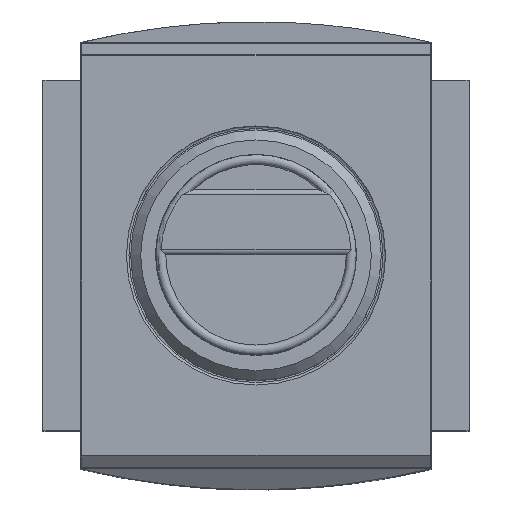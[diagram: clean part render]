
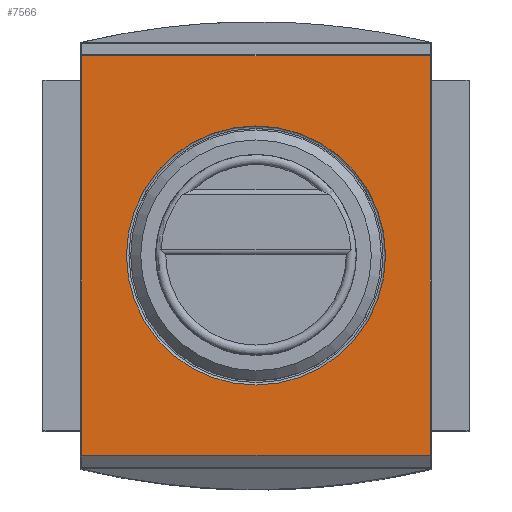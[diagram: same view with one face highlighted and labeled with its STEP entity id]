
A CAD part, top view. The second image highlights one B-rep face of the part: STEP entity #7566.
In plain terms, the highlighted planar face has unit normal (0, 0, 1).
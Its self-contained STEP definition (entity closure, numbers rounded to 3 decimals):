
#6997=CARTESIAN_POINT('',(-25.85,0.0,58.));
#6998=VERTEX_POINT('',#6997);
#6999=CARTESIAN_POINT('',(0.0,0.0,58.));
#7000=DIRECTION('',(0.0,0.0,-1.0));
#7001=DIRECTION('',(1.0,0.0,0.0));
#7002=AXIS2_PLACEMENT_3D('',#6999,#7000,#7001);
#7003=CIRCLE('',#7002,25.85);
#7004=EDGE_CURVE('',#6998,#6998,#7003,.T.);
#7344=CARTESIAN_POINT('',(-34.8,39.812,58.));
#7345=VERTEX_POINT('',#7344);
#7353=CARTESIAN_POINT('',(34.8,39.812,58.));
#7354=VERTEX_POINT('',#7353);
#7355=CARTESIAN_POINT('',(-34.8,39.812,58.));
#7356=DIRECTION('',(1.0,0.0,0.0));
#7357=VECTOR('',#7356,69.6);
#7358=LINE('',#7355,#7357);
#7359=EDGE_CURVE('',#7345,#7354,#7358,.T.);
#7393=CARTESIAN_POINT('',(34.8,-39.812,58.));
#7394=VERTEX_POINT('',#7393);
#7395=CARTESIAN_POINT('',(34.8,39.812,58.));
#7396=DIRECTION('',(0.0,-1.0,0.0));
#7397=VECTOR('',#7396,79.624);
#7398=LINE('',#7395,#7397);
#7399=EDGE_CURVE('',#7354,#7394,#7398,.T.);
#7431=CARTESIAN_POINT('',(-34.8,-39.812,58.));
#7432=VERTEX_POINT('',#7431);
#7433=CARTESIAN_POINT('',(34.8,-39.812,58.));
#7434=DIRECTION('',(-1.0,0.0,0.0));
#7435=VECTOR('',#7434,69.6);
#7436=LINE('',#7433,#7435);
#7437=EDGE_CURVE('',#7394,#7432,#7436,.T.);
#7479=CARTESIAN_POINT('',(-34.8,-39.812,58.));
#7480=DIRECTION('',(0.0,1.0,0.0));
#7481=VECTOR('',#7480,79.624);
#7482=LINE('',#7479,#7481);
#7483=EDGE_CURVE('',#7432,#7345,#7482,.T.);
#7552=CARTESIAN_POINT('',(0.0,0.0,58.));
#7553=DIRECTION('',(0.0,0.0,1.0));
#7554=DIRECTION('',(1.0,0.0,0.0));
#7555=AXIS2_PLACEMENT_3D('',#7552,#7553,#7554);
#7556=PLANE('',#7555);
#7557=ORIENTED_EDGE('',*,*,#7359,.F.);
#7558=ORIENTED_EDGE('',*,*,#7483,.F.);
#7559=ORIENTED_EDGE('',*,*,#7437,.F.);
#7560=ORIENTED_EDGE('',*,*,#7399,.F.);
#7561=EDGE_LOOP('',(#7557,#7558,#7559,#7560));
#7562=FACE_OUTER_BOUND('',#7561,.T.);
#7563=ORIENTED_EDGE('',*,*,#7004,.T.);
#7564=EDGE_LOOP('',(#7563));
#7565=FACE_BOUND('',#7564,.T.);
#7566=ADVANCED_FACE('',(#7562,#7565),#7556,.T.);
